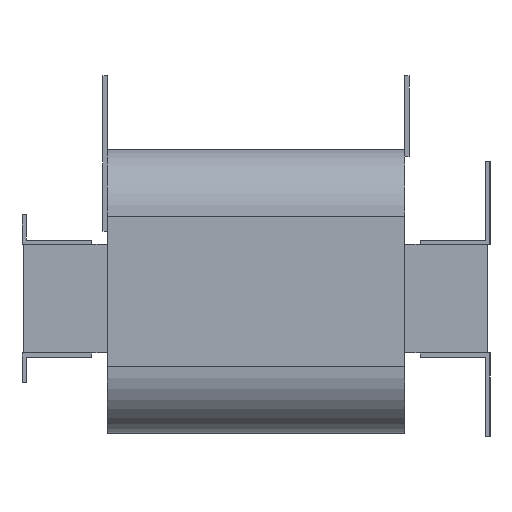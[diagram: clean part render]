
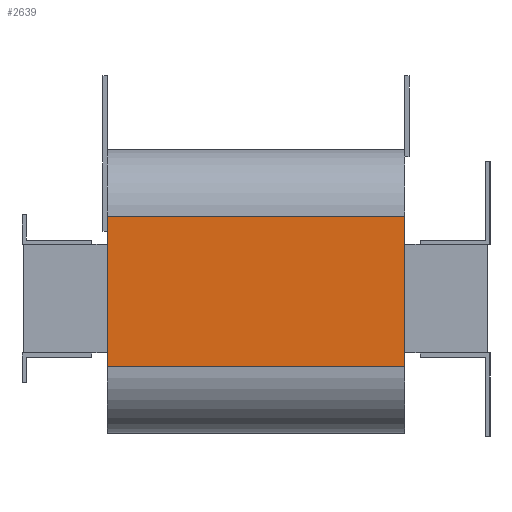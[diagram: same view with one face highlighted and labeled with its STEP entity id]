
A CAD part, left-side view. The second image highlights one B-rep face of the part: STEP entity #2639.
In plain terms, the highlighted planar face has unit normal (-1, 0, 0).
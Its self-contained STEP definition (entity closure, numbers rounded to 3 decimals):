
#114=PLANE('',#2843);
#243=FACE_OUTER_BOUND('',#393,.T.);
#393=EDGE_LOOP('',(#2263,#2264,#2265,#2266));
#670=LINE('',#4142,#996);
#689=LINE('',#4192,#1015);
#690=LINE('',#4195,#1016);
#691=LINE('',#4196,#1017);
#996=VECTOR('',#3383,10.);
#1015=VECTOR('',#3428,10.);
#1016=VECTOR('',#3431,10.);
#1017=VECTOR('',#3432,10.);
#1325=VERTEX_POINT('',#4139);
#1326=VERTEX_POINT('',#4141);
#1344=VERTEX_POINT('',#4190);
#1345=VERTEX_POINT('',#4194);
#1652=EDGE_CURVE('',#1325,#1326,#670,.T.);
#1678=EDGE_CURVE('',#1344,#1325,#689,.T.);
#1679=EDGE_CURVE('',#1344,#1345,#690,.T.);
#1680=EDGE_CURVE('',#1326,#1345,#691,.T.);
#2263=ORIENTED_EDGE('',*,*,#1678,.F.);
#2264=ORIENTED_EDGE('',*,*,#1679,.T.);
#2265=ORIENTED_EDGE('',*,*,#1680,.F.);
#2266=ORIENTED_EDGE('',*,*,#1652,.F.);
#2639=ADVANCED_FACE('',(#243),#114,.T.);
#2843=AXIS2_PLACEMENT_3D('',#4193,#3429,#3430);
#3383=DIRECTION('',(0.,0.,1.));
#3428=DIRECTION('',(0.,1.,0.));
#3429=DIRECTION('center_axis',(-1.,0.,0.));
#3430=DIRECTION('ref_axis',(0.,0.,1.));
#3431=DIRECTION('',(0.,0.,1.));
#3432=DIRECTION('',(0.,-1.,0.));
#4139=CARTESIAN_POINT('',(-238.,257.5,-45.5));
#4141=CARTESIAN_POINT('',(-238.,257.5,55.5));
#4142=CARTESIAN_POINT('',(-238.,257.5,-90.5));
#4190=CARTESIAN_POINT('',(-238.,57.5,-45.5));
#4192=CARTESIAN_POINT('',(-238.,57.5,-45.5));
#4193=CARTESIAN_POINT('Origin',(-238.,57.5,-90.5));
#4194=CARTESIAN_POINT('',(-238.,57.5,55.5));
#4195=CARTESIAN_POINT('',(-238.,57.5,-90.5));
#4196=CARTESIAN_POINT('',(-238.,57.5,55.5));
